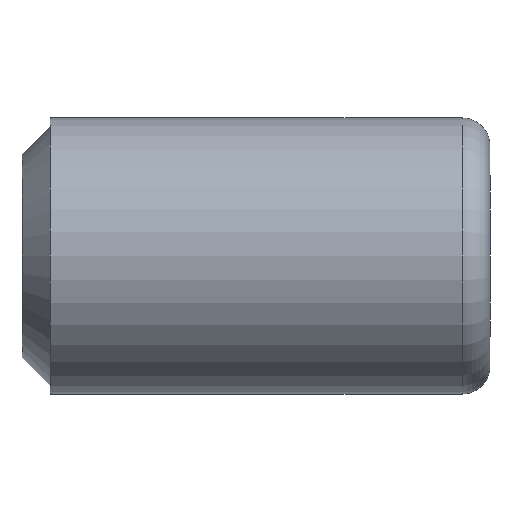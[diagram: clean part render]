
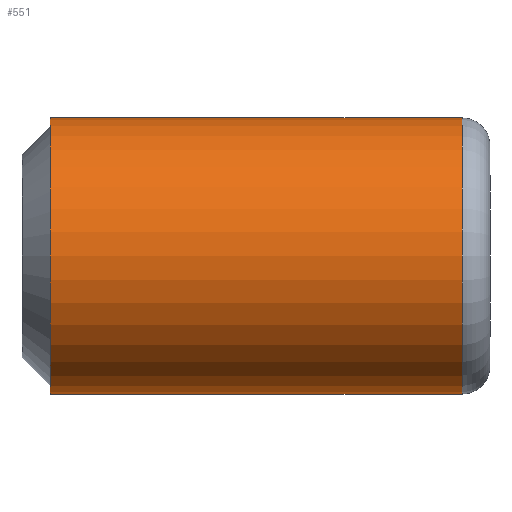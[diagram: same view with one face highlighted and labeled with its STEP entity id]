
A CAD part, front view. The second image highlights one B-rep face of the part: STEP entity #551.
In plain terms, the highlighted cylindrical face has radius 9.474 mm (diameter 18.948 mm), a partial arc.
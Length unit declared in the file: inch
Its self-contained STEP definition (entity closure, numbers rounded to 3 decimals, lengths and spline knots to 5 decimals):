
#15 = VERTEX_POINT ( 'NONE', #625 ) ;
#33 = DIRECTION ( 'NONE',  ( -1., 0., 0. ) ) ;
#47 = CIRCLE ( 'NONE', #195, 0.373 ) ;
#92 = EDGE_CURVE ( 'NONE', #367, #15, #481, .T. ) ;
#100 = ORIENTED_EDGE ( 'NONE', *, *, #622, .F. ) ;
#108 = VECTOR ( 'NONE', #215, 39.37008 ) ;
#195 = AXIS2_PLACEMENT_3D ( 'NONE', #470, #33, #265 ) ;
#215 = DIRECTION ( 'NONE',  ( -1., 0., 0. ) ) ;
#265 = DIRECTION ( 'NONE',  ( 0., 0., 1. ) ) ;
#276 = ORIENTED_EDGE ( 'NONE', *, *, #953, .F. ) ;
#283 = CYLINDRICAL_SURFACE ( 'NONE', #400, 0.373 ) ;
#292 = AXIS2_PLACEMENT_3D ( 'NONE', #743, #588, #442 ) ;
#340 = CARTESIAN_POINT ( 'NONE',  ( 0.07674, 0., -0.373 ) ) ;
#348 = DIRECTION ( 'NONE',  ( -1., 0., 0. ) ) ;
#357 = EDGE_CURVE ( 'NONE', #427, #367, #47, .T. ) ;
#367 = VERTEX_POINT ( 'NONE', #464 ) ;
#374 = VERTEX_POINT ( 'NONE', #340 ) ;
#384 = CIRCLE ( 'NONE', #292, 0.373 ) ;
#398 = VECTOR ( 'NONE', #348, 39.37008 ) ;
#400 = AXIS2_PLACEMENT_3D ( 'NONE', #420, #857, #495 ) ;
#420 = CARTESIAN_POINT ( 'NONE',  ( 0., 0., 0. ) ) ;
#427 = VERTEX_POINT ( 'NONE', #549 ) ;
#442 = DIRECTION ( 'NONE',  ( 0., 0., 1. ) ) ;
#464 = CARTESIAN_POINT ( 'NONE',  ( 1.18924, 0., 0.373 ) ) ;
#470 = CARTESIAN_POINT ( 'NONE',  ( 1.18924, 0., 0. ) ) ;
#481 = LINE ( 'NONE', #843, #398 ) ;
#495 = DIRECTION ( 'NONE',  ( 0., 0., 1. ) ) ;
#528 = ORIENTED_EDGE ( 'NONE', *, *, #92, .T. ) ;
#549 = CARTESIAN_POINT ( 'NONE',  ( 1.18924, 0., -0.373 ) ) ;
#551 = ADVANCED_FACE ( 'NONE', ( #706 ), #283, .T. ) ;
#559 = ORIENTED_EDGE ( 'NONE', *, *, #357, .T. ) ;
#588 = DIRECTION ( 'NONE',  ( -1., 0., 0. ) ) ;
#595 = EDGE_LOOP ( 'NONE', ( #276, #559, #528, #100 ) ) ;
#622 = EDGE_CURVE ( 'NONE', #374, #15, #384, .T. ) ;
#625 = CARTESIAN_POINT ( 'NONE',  ( 0.07674, 0., 0.373 ) ) ;
#706 = FACE_OUTER_BOUND ( 'NONE', #595, .T. ) ;
#743 = CARTESIAN_POINT ( 'NONE',  ( 0.07674, 0., 0. ) ) ;
#843 = CARTESIAN_POINT ( 'NONE',  ( 0., 0., 0.373 ) ) ;
#857 = DIRECTION ( 'NONE',  ( -1., 0., 0. ) ) ;
#939 = LINE ( 'NONE', #943, #108 ) ;
#943 = CARTESIAN_POINT ( 'NONE',  ( 0., 0., -0.373 ) ) ;
#953 = EDGE_CURVE ( 'NONE', #427, #374, #939, .T. ) ;
